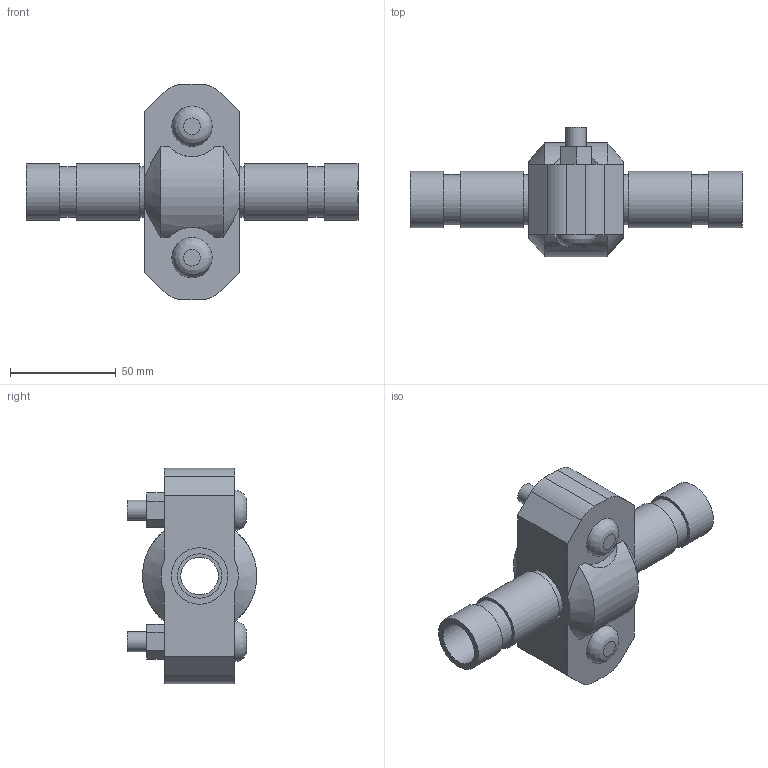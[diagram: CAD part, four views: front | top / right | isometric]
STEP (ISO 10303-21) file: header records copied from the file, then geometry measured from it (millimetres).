
FILE_DESCRIPTION(/* description */ ('VIC EXPANSION JOINT 1 COUPLING EXPANDED STYLE 155 (OGS)','CAx-IF Rec.Pracs.---Representation and Presentation of Product Manufacturing Information (PMI)---4.0---2014-10-13'),/* implementation_level */ '2;1');
FILE_NAME(/* name */ 'C:\Users\kkamble\AppData\Roaming\Autodesk\ApplicationPlugins\Victaulic.Temp\A694\Victaulic_IPS_Expansion Joint_Expanded_1 Coupling_Style 155 (OGS)_0.75 (20).stp',/* time_stamp */ '2021-06-26T23:47:02+02:00',/* author */ ('kkamble'),/* organization */ ('Victaulic'),/* preprocessor_version */ 'ST-DEVELOPER v17.2',/* originating_system */ 'Autodesk Inventor 2019',/* authorisation */ '');
FILE_SCHEMA (('AP242_MANAGED_MODEL_BASED_3D_ENGINEERING_MIM_LF { 1 0 10303 442 1 1 4 }'));
Length unit declared in the file: inch
Products named in the file (3): 155-0.75; Nipple-0.75; 077-0.75
Assembly tree (3 placements, depth 2):
  155-0.75
    Nipple-0.75  x2
    077-0.75
Bounding box: 156.72 x 61.1 x 101.6 mm (x, y, z)
Volume: 171015.6 mm3; surface area: 52394.9 mm2
Topology: 3 solids, 5 shells, 85 faces, 205 edges, 146 vertices
Faces by surface type: plane 48, cylinder 31, cone 4, bspline 2
Full cylindrical faces by diameter (mm): 9.525 x4, 11.43 x2, 17.78 x1, 20.93 x2, 23.825 x4, 26.67 x8
Entity records: 2501 total; most frequent: CARTESIAN_POINT 512, DIRECTION 389, ORIENTED_EDGE 350, EDGE_CURVE 175, AXIS2_PLACEMENT_3D 149, VERTEX_POINT 122, EDGE_LOOP 93, LINE 91
